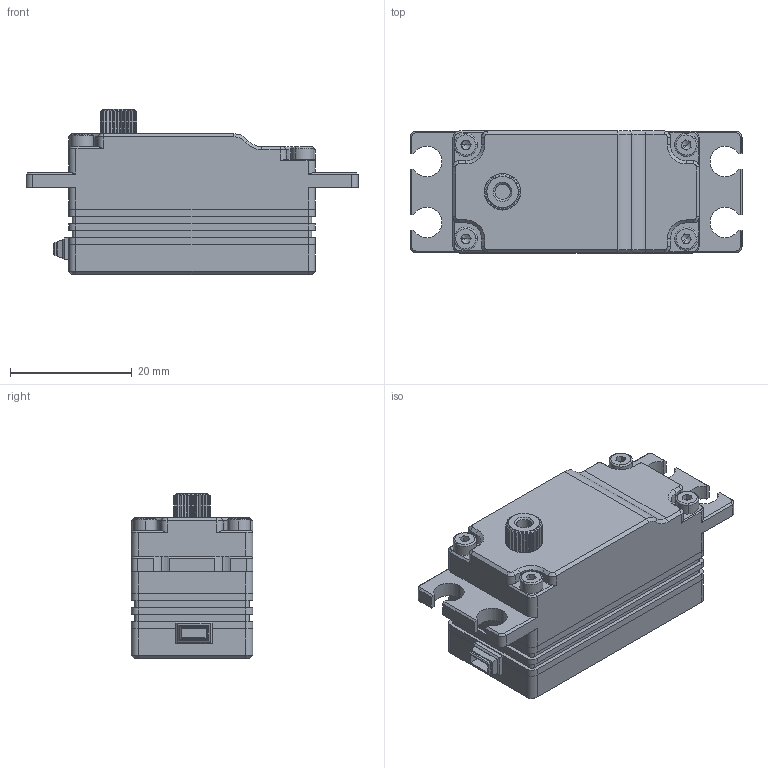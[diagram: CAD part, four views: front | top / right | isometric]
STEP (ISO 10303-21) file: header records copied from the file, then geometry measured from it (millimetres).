
FILE_DESCRIPTION (( 'STEP AP214' ), '1' );
FILE_NAME ('X20-1806_DM_20221107.STEP', '2023-10-13T03:36:25', ( '' ), ( '' ), 'SwSTEP 2.0', 'SolidWorks 2016', '' );
FILE_SCHEMA (( 'AUTOMOTIVE_DESIGN' ));
Length unit declared in the file: millimetre
Products named in the file (1): X20-1806_DM_20221107
Bounding box: 54.5 x 20 x 27.1 mm (x, y, z)
Surface area: 5446.6 mm2 (no closed solid volume)
Topology: 0 solids, 9 shells, 423 faces, 1145 edges, 721 vertices
Faces by surface type: plane 226, cylinder 125, cone 64, bspline 8
Entity records: 18253 total; most frequent: CARTESIAN_POINT 3221, DIRECTION 2164, ORIENTED_EDGE 2064, EDGE_CURVE 1137, AXIS2_PLACEMENT_3D 739, VERTEX_POINT 721, LINE 686, VECTOR 686
